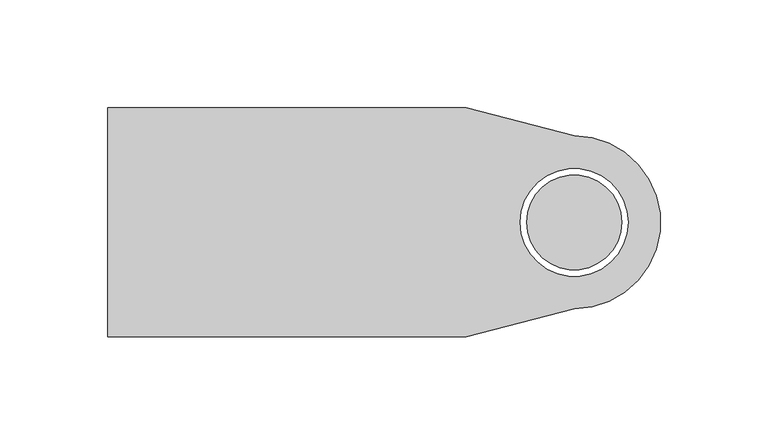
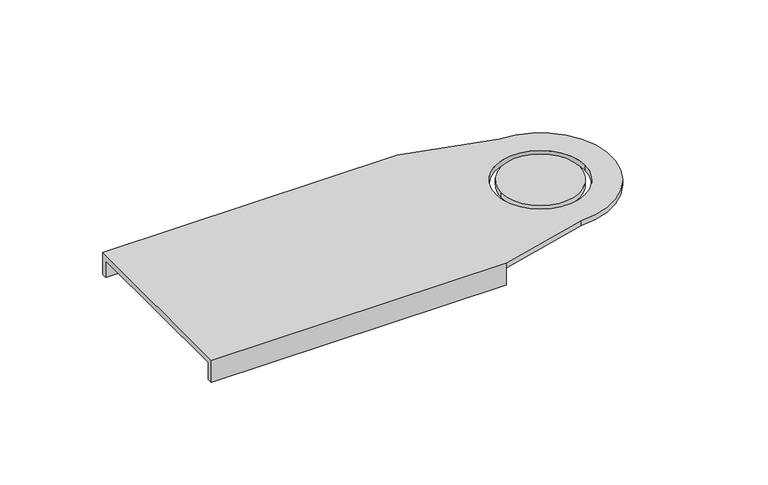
"""IFC4 building model written with IfcOpenShell, lengths in millimetres: cable carrier fitting geometry, BAKS_LDLS_BEND_Articulated connector for LLDS_LGSU : LGSUT_H100."""

from ifc_helpers import new_model, si_unit, frame, origin, place, context, project, spatial, polyline, circle_curve, source, transform, mapped, element, save
from ifc_brep_helpers import plane_surface, cylinder_surface, revolved_surface, advanced_brep


def cable_carrier_fitting_4f7538c2(model_context):
    return source(origin(), model_context, "Body", "AdvancedBrep", [
        advanced_brep(
        [(-216.0, 53.0, 3.0), (-216.0, -53.0, 3.0), (-50.0, -53.0, 3.0), (0.0, -40.0, 3.0), (0.0, 40.0, 3.0), (-50.0, 53.0, 3.0), (25.0, 0.0, 3.0), (-25.0, 0.0, 3.0), (-50.0, -53.0, 0.0), (-50.0, -50.0, 0.0), (-216.0, -50.0, 0.0), (-216.0, 50.0, 0.0), (-50.0, 50.0, 0.0), (-50.0, 53.0, 0.0), (0.0, 40.0, 0.0), (0.0, -40.0, 0.0), (-25.0, 0.0, 0.0), (25.0, 0.0, 0.0), (-50.0, 53.0, -10.0), (-216.0, 53.0, -10.0), (-216.0, -53.0, -10.0), (-50.0, -53.0, -10.0), (-216.0, 50.0, -10.0), (-216.0, -50.0, -10.0), (-50.0, -50.0, -10.0), (-50.0, 50.0, -10.0)],
        [
            (0, 1),
            (1, 2),
            (2, 3),
            (3, 4, circle_curve(frame((0.0, 0.0, 3.0), z_axis=(0.0, 0.0, 1.0), x_axis=(-1.0, 0.0, 0.0)), 40.0)),
            (4, 5),
            (5, 0),
            (6, 7, circle_curve(frame((0.0, 0.0, 3.0), z_axis=(0.0, 0.0, -1.0), x_axis=(-1.0, 0.0, 0.0)), 25.0)),
            (7, 6, circle_curve(frame((0.0, 0.0, 3.0), z_axis=(0.0, 0.0, -1.0), x_axis=(-1.0, 0.0, 0.0)), 25.0)),
            (8, 9),
            (9, 10),
            (10, 11),
            (11, 12),
            (12, 13),
            (13, 14),
            (14, 15, circle_curve(frame((0.0, 0.0, 0.0), z_axis=(0.0, 0.0, -1.0), x_axis=(-1.0, 0.0, 0.0)), 40.0)),
            (15, 8),
            (16, 17, circle_curve(frame((0.0, 0.0, 0.0), z_axis=(0.0, 0.0, 1.0), x_axis=(-1.0, 0.0, 0.0)), 25.0)),
            (17, 16, circle_curve(frame((0.0, 0.0, 0.0), z_axis=(0.0, 0.0, 1.0), x_axis=(-1.0, 0.0, 0.0)), 25.0)),
            (5, 13),
            (13, 18),
            (18, 19),
            (19, 0),
            (1, 20),
            (20, 21),
            (21, 8),
            (8, 2),
            (19, 22),
            (22, 11),
            (10, 23),
            (23, 20),
            (7, 16),
            (17, 6),
            (4, 14),
            (3, 15),
            (23, 24),
            (24, 21),
            (9, 24),
            (18, 25),
            (25, 22),
            (12, 25),
        ],
        [
            plane_surface(frame((-50.0, 53.0, 3.0), z_axis=(0.0, 0.0, 1.0), x_axis=(1.0, 0.0, 0.0))),
            plane_surface(frame((-50.0, 53.0, 0.0), z_axis=(0.0, 0.0, -1.0), x_axis=(-1.0, 0.0, 0.0))),
            plane_surface(frame((-216.0, 53.0, 3.0), z_axis=(0.0, 1.0, 0.0), x_axis=(0.0, 0.0, -1.0))),
            plane_surface(frame((-50.0, -53.0, 3.0), z_axis=(0.0, -1.0, 0.0), x_axis=(0.0, 0.0, -1.0))),
            plane_surface(frame((-216.0, -53.0, 3.0), z_axis=(-1.0, 0.0, 0.0), x_axis=(0.0, 0.0, -1.0))),
            revolved_surface(polyline([(-25.0, 0.0, 3.0), (-25.0, 0.0, 0.0)]), (0.0, 0.0, 0.0), (0.0, 0.0, 1.0)),
            plane_surface(frame((-50.0, 53.0, 3.0), z_axis=(0.2516338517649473, 0.9678225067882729, 0.0), x_axis=(0.0, 0.0, -1.0))),
            cylinder_surface(frame((0.0, 0.0, 0.0), z_axis=(0.0, 0.0, 1.0), x_axis=(-1.0, 0.0, 0.0)), 40.0),
            plane_surface(frame((0.0, -40.0, 3.0), z_axis=(0.25163385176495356, -0.9678225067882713, 0.0), x_axis=(0.0, 0.0, -1.0))),
            plane_surface(frame((-50.0, -50.0, -10.0), z_axis=(0.0, 0.0, -1.0), x_axis=(-1.0, 0.0, 0.0))),
            plane_surface(frame((-216.0, -50.0, 0.0), z_axis=(0.0, 1.0, 0.0), x_axis=(0.0, 0.0, -1.0))),
            plane_surface(frame((-50.0, -50.0, 0.0), z_axis=(1.0, 0.0, 0.0), x_axis=(0.0, 0.0, -1.0))),
            plane_surface(frame((-50.0, 53.0, -10.0), z_axis=(0.0, 0.0, -1.0), x_axis=(-1.0, 0.0, 0.0))),
            plane_surface(frame((-50.0, 53.0, 0.0), z_axis=(1.0, 0.0, 0.0), x_axis=(0.0, 0.0, -1.0))),
            plane_surface(frame((-50.0, 50.0, 0.0), z_axis=(0.0, -1.0, 0.0), x_axis=(0.0, 0.0, -1.0))),
        ],
        [
            (0, [[1, 2, 3, 4, 5, 6], [7, 8]]),
            (1, [[9, 10, 11, 12, 13, 14, 15, 16], [17, 18]]),
            (2, [[19, 20, 21, 22, -6]]),
            (3, [[23, 24, 25, 26, -2]]),
            (4, [[27, 28, -11, 29, 30, -23, -1, -22]]),
            (5, [[-8, 31, -18, 32]]),
            (5, [[-17, -31, -7, -32]]),
            (6, [[33, -14, -19, -5]]),
            (7, [[34, -15, -33, -4]]),
            (8, [[-26, -16, -34, -3]]),
            (9, [[35, 36, -24, -30]]),
            (10, [[-29, -10, 37, -35]]),
            (11, [[-37, -9, -25, -36]]),
            (12, [[-21, 38, 39, -27]]),
            (13, [[-20, -13, 40, -38]]),
            (14, [[-40, -12, -28, -39]]),
        ],
    ),
        advanced_brep(
        [(22.0, 0.0, 3.0), (-22.0, 0.0, 3.0), (-22.0, 0.0, 0.0), (22.0, 0.0, 0.0)],
        [
            (0, 1, circle_curve(frame((0.0, 0.0, 3.0), z_axis=(0.0, 0.0, 1.0), x_axis=(-1.0, 0.0, 0.0)), 22.0)),
            (1, 0, circle_curve(frame((0.0, 0.0, 3.0), z_axis=(0.0, 0.0, 1.0), x_axis=(-1.0, 0.0, 0.0)), 22.0)),
            (2, 3, circle_curve(frame((0.0, 0.0, 0.0), z_axis=(0.0, 0.0, -1.0), x_axis=(-1.0, 0.0, 0.0)), 22.0)),
            (3, 2, circle_curve(frame((0.0, 0.0, 0.0), z_axis=(0.0, 0.0, -1.0), x_axis=(-1.0, 0.0, 0.0)), 22.0)),
            (1, 2),
            (3, 0),
        ],
        [
            plane_surface(frame((-50.0, 53.0, 3.0), z_axis=(0.0, 0.0, 1.0), x_axis=(1.0, 0.0, 0.0))),
            plane_surface(frame((-50.0, 53.0, 0.0), z_axis=(0.0, 0.0, -1.0), x_axis=(-1.0, 0.0, 0.0))),
            cylinder_surface(frame((0.0, 0.0, 0.0), z_axis=(0.0, 0.0, -1.0), x_axis=(-1.0, 0.0, 0.0)), 22.0),
        ],
        [
            (0, [[1, 2]]),
            (1, [[3, 4]]),
            (2, [[-2, 5, -4, 6]]),
            (2, [[-3, -5, -1, -6]]),
        ],
    ),
    ])


if __name__ == "__main__":
    model = new_model("IFC4")
    model_context = context("Model", 3, world=origin())
    ifc_project = project(units=[si_unit("LENGTHUNIT", "METRE", prefix="MILLI")], contexts=[model_context])
    site = spatial("IfcSite", under=ifc_project)
    building = spatial("IfcBuilding", under=site)
    placement = place(None, origin())
    cable_carrier_fitting_shape = cable_carrier_fitting_4f7538c2(model_context)
    element("IfcCableCarrierFitting", 1, ObjectType="BAKS_LDLS_BEND_Articulated connector for LLDS_LGSU : LGSUT_H100", at=placement, inside=building, context=model_context, shape_type="MappedRepresentation", body=[
        mapped(cable_carrier_fitting_shape, transform((0.0, 0.0, 0.0), x_axis=(1.0, 0.0, 0.0), y_axis=(0.0, 1.0, 0.0), z_axis=(0.0, 0.0, 1.0))),
    ])
    save(model, "model.ifc")
